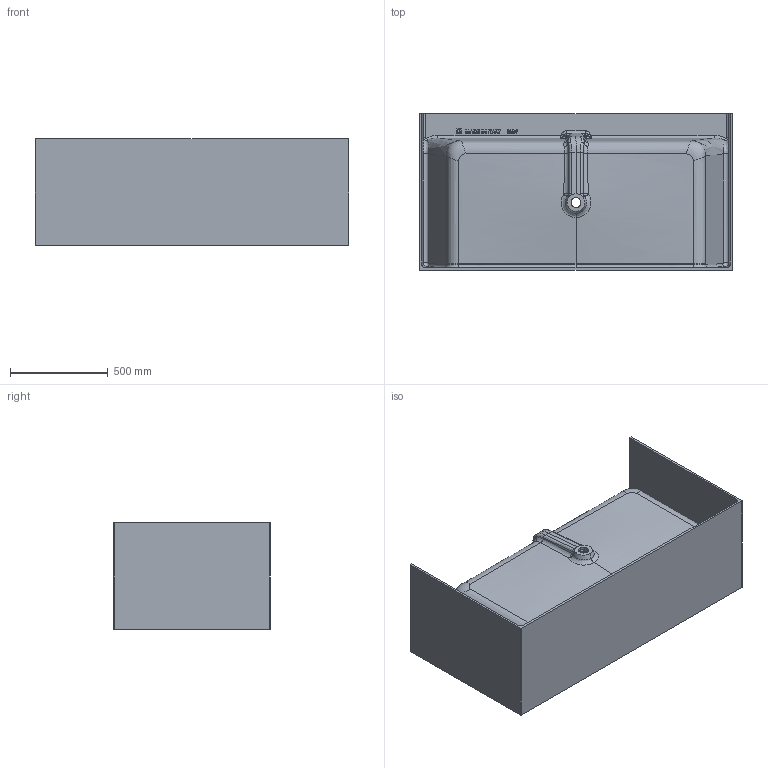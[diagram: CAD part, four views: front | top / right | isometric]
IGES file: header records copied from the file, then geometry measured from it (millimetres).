
Start section: Data from Parasolid IGES Translator 22.0.50, Copyright(c) 2006 Siemens P LM Software. All Rights Reserved.
Global section: file name: noorth-bathtub-H54 D80 W160_5660.igs; native system: By Siemens PLM Incorporated; preprocessor: XPlus GENERIC/IGES 22.0.50; author: Noname; organization: Noname; date: 20250706.154925; units: metre
Bounding box: 1599.99 x 800 x 542 mm (x, y, z)
Volume: 66410846.5 mm3; surface area: 7391979 mm2
Topology: 1 solids, 1 shells, 422 faces, 1089 edges, 690 vertices
Faces by surface type: plane 209, bspline 174, cylinder 35, cone 3, torus 1
Full cylindrical faces by diameter (mm): 51 x1
